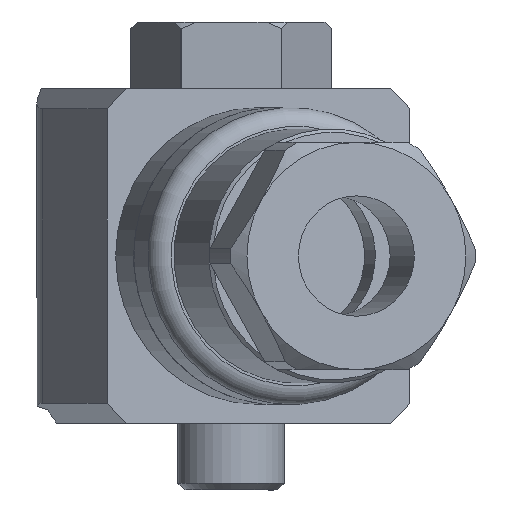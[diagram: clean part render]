
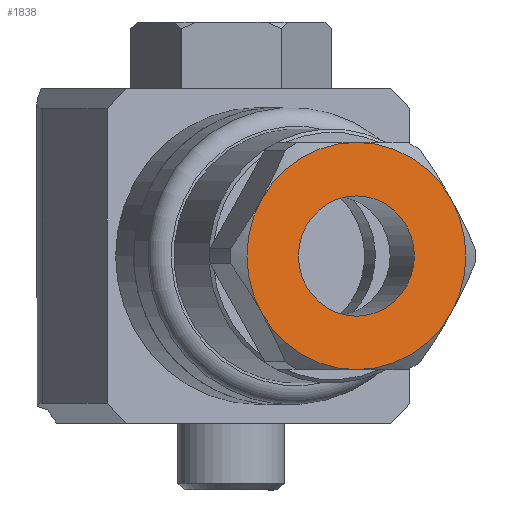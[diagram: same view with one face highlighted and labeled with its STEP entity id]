
A CAD part, front view. The second image highlights one B-rep face of the part: STEP entity #1838.
In plain terms, the highlighted planar face has unit normal (0.269, -0.963, 0).
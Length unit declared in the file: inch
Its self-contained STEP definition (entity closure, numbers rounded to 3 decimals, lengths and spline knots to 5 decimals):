
#95=FACE_BOUND('',#530,.T.);
#406=FACE_OUTER_BOUND('',#529,.T.);
#529=EDGE_LOOP('',(#1574,#1575,#1576,#1577,#1578,#1579));
#530=EDGE_LOOP('',(#1580,#1581));
#628=CIRCLE('',#2045,0.33465);
#630=CIRCLE('',#2048,0.33465);
#633=CIRCLE('',#2052,0.33465);
#635=CIRCLE('',#2055,0.33465);
#637=CIRCLE('',#2058,0.33465);
#639=CIRCLE('',#2061,0.33465);
#656=CIRCLE('',#2098,0.17717);
#657=CIRCLE('',#2099,0.17717);
#794=VERTEX_POINT('',#3116);
#795=VERTEX_POINT('',#3120);
#798=VERTEX_POINT('',#3129);
#802=VERTEX_POINT('',#3146);
#805=VERTEX_POINT('',#3158);
#808=VERTEX_POINT('',#3170);
#833=VERTEX_POINT('',#3265);
#834=VERTEX_POINT('',#3266);
#1023=EDGE_CURVE('',#794,#795,#628,.T.);
#1027=EDGE_CURVE('',#798,#794,#630,.T.);
#1033=EDGE_CURVE('',#802,#798,#633,.T.);
#1037=EDGE_CURVE('',#805,#802,#635,.T.);
#1041=EDGE_CURVE('',#808,#805,#637,.T.);
#1045=EDGE_CURVE('',#795,#808,#639,.T.);
#1083=EDGE_CURVE('',#833,#834,#656,.T.);
#1084=EDGE_CURVE('',#834,#833,#657,.T.);
#1574=ORIENTED_EDGE('',*,*,#1023,.F.);
#1575=ORIENTED_EDGE('',*,*,#1027,.F.);
#1576=ORIENTED_EDGE('',*,*,#1033,.F.);
#1577=ORIENTED_EDGE('',*,*,#1037,.F.);
#1578=ORIENTED_EDGE('',*,*,#1041,.F.);
#1579=ORIENTED_EDGE('',*,*,#1045,.F.);
#1580=ORIENTED_EDGE('',*,*,#1083,.T.);
#1581=ORIENTED_EDGE('',*,*,#1084,.T.);
#1634=PLANE('',#2097);
#1838=ADVANCED_FACE('',(#406,#95),#1634,.T.);
#2045=AXIS2_PLACEMENT_3D('',#3121,#2531,#2532);
#2048=AXIS2_PLACEMENT_3D('',#3133,#2537,#2538);
#2052=AXIS2_PLACEMENT_3D('',#3150,#2545,#2546);
#2055=AXIS2_PLACEMENT_3D('',#3162,#2551,#2552);
#2058=AXIS2_PLACEMENT_3D('',#3174,#2557,#2558);
#2061=AXIS2_PLACEMENT_3D('',#3185,#2563,#2564);
#2097=AXIS2_PLACEMENT_3D('',#3264,#2656,#2657);
#2098=AXIS2_PLACEMENT_3D('',#3267,#2658,#2659);
#2099=AXIS2_PLACEMENT_3D('',#3268,#2660,#2661);
#2531=DIRECTION('center_axis',(-0.269,0.963,0.));
#2532=DIRECTION('ref_axis',(0.963,0.269,0.));
#2537=DIRECTION('center_axis',(-0.269,0.963,0.));
#2538=DIRECTION('ref_axis',(0.963,0.269,0.));
#2545=DIRECTION('center_axis',(-0.269,0.963,0.));
#2546=DIRECTION('ref_axis',(0.963,0.269,0.));
#2551=DIRECTION('center_axis',(-0.269,0.963,0.));
#2552=DIRECTION('ref_axis',(0.963,0.269,0.));
#2557=DIRECTION('center_axis',(-0.269,0.963,0.));
#2558=DIRECTION('ref_axis',(0.963,0.269,0.));
#2563=DIRECTION('center_axis',(-0.269,0.963,0.));
#2564=DIRECTION('ref_axis',(0.963,0.269,0.));
#2656=DIRECTION('center_axis',(0.269,-0.963,0.));
#2657=DIRECTION('ref_axis',(0.963,0.269,0.));
#2658=DIRECTION('center_axis',(-0.269,0.963,0.));
#2659=DIRECTION('ref_axis',(-0.963,-0.269,0.));
#2660=DIRECTION('center_axis',(-0.269,0.963,0.));
#2661=DIRECTION('ref_axis',(-0.963,-0.269,0.));
#3116=CARTESIAN_POINT('',(-0.9524,-2.69192,-0.02111));
#3120=CARTESIAN_POINT('',(-1.23157,-2.76975,0.1462));
#3121=CARTESIAN_POINT('Origin',(-0.95242,-2.69193,0.31354));
#3129=CARTESIAN_POINT('',(-0.67324,-2.6141,0.14623));
#3133=CARTESIAN_POINT('Origin',(-0.95242,-2.69193,0.31354));
#3146=CARTESIAN_POINT('',(-0.67326,-2.61411,0.48088));
#3150=CARTESIAN_POINT('Origin',(-0.95242,-2.69193,0.31354));
#3158=CARTESIAN_POINT('',(-0.95243,-2.69193,0.64818));
#3162=CARTESIAN_POINT('Origin',(-0.95242,-2.69193,0.31354));
#3170=CARTESIAN_POINT('',(-1.23159,-2.76976,0.48085));
#3174=CARTESIAN_POINT('Origin',(-0.95242,-2.69193,0.31354));
#3185=CARTESIAN_POINT('Origin',(-0.95242,-2.69193,0.31354));
#3264=CARTESIAN_POINT('Origin',(-0.74383,-2.63378,0.31355));
#3265=CARTESIAN_POINT('',(-0.78176,-2.64435,0.31355));
#3266=CARTESIAN_POINT('',(-1.12307,-2.73951,0.31353));
#3267=CARTESIAN_POINT('Origin',(-0.95242,-2.69193,0.31354));
#3268=CARTESIAN_POINT('Origin',(-0.95242,-2.69193,0.31354));
